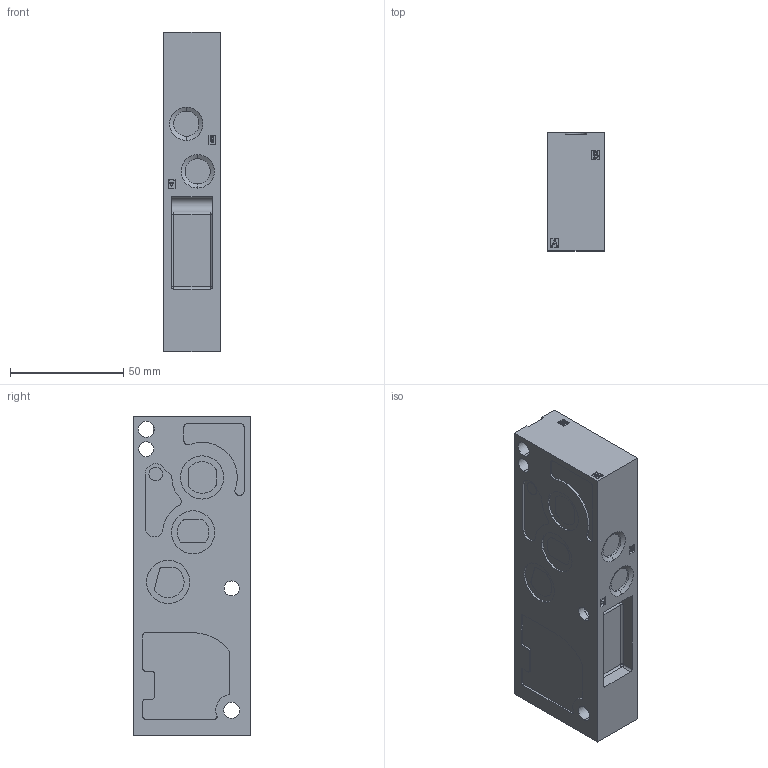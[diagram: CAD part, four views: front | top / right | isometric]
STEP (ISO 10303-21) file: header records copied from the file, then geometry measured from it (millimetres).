
FILE_DESCRIPTION (( 'STEP AP214' ), '1' );
FILE_NAME ('92A-000-B2J.STEP', '2019-08-09T13:03:01', ( '' ), ( '' ), 'SwSTEP 2.0', 'SolidWorks 2014', '' );
FILE_SCHEMA (( 'AUTOMOTIVE_DESIGN' ));
Length unit declared in the file: inch
Products named in the file (2): 92-BASE-B2J; 92A-000-B2J
Assembly tree (1 placements, depth 2):
  92A-000-B2J
    92-BASE-B2J
Bounding box: 25 x 52 x 141 mm (x, y, z)
Volume: 168300.5 mm3; surface area: 28871.7 mm2
Topology: 1 solids, 3 shells, 455 faces, 1182 edges, 782 vertices
Faces by surface type: plane 231, cylinder 186, bspline 25, cone 13
Entity records: 21147 total; most frequent: CARTESIAN_POINT 3772, DIRECTION 2388, ORIENTED_EDGE 2360, EDGE_CURVE 1180, AXIS2_PLACEMENT_3D 824, VERTEX_POINT 782, VECTOR 740, LINE 740
